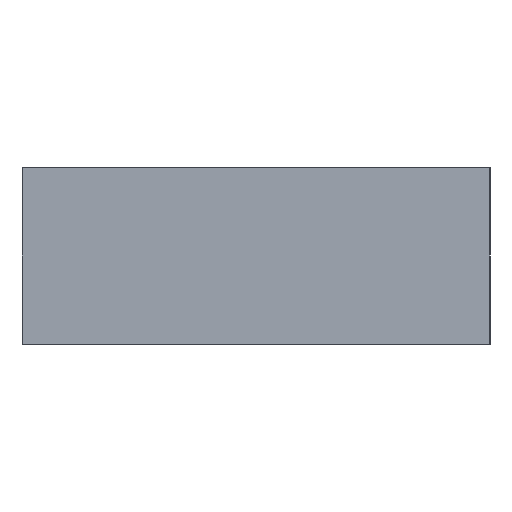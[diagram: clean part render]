
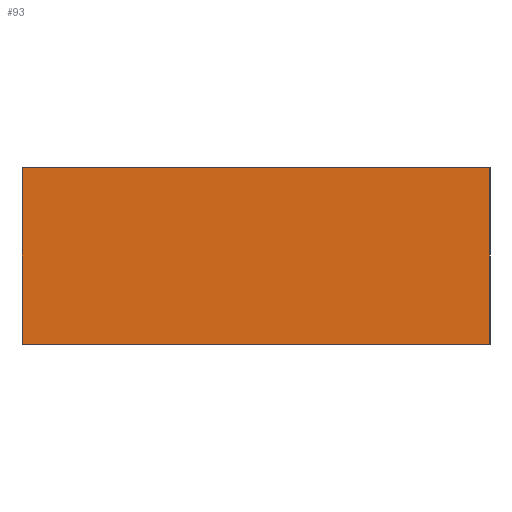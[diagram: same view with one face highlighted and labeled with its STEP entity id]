
A CAD part, left-side view. The second image highlights one B-rep face of the part: STEP entity #93.
In plain terms, the highlighted planar face has unit normal (-1, 0, 0).
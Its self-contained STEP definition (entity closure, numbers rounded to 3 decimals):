
#52 = EDGE_LOOP ( 'NONE', ( #1181, #67, #481, #1205 ) ) ;
#67 = ORIENTED_EDGE ( 'NONE', *, *, #76, .F. ) ;
#76 = EDGE_CURVE ( 'NONE', #744, #179, #77, .T. ) ;
#77 = LINE ( 'NONE', #114, #829 ) ;
#88 = FACE_OUTER_BOUND ( 'NONE', #52, .T. ) ;
#93 = ADVANCED_FACE ( 'NONE', ( #88 ), #764, .F. ) ;
#114 = CARTESIAN_POINT ( 'NONE',  ( 0., 0., 5. ) ) ;
#117 = CARTESIAN_POINT ( 'NONE',  ( 0., 0., -5. ) ) ;
#130 = LINE ( 'NONE', #297, #833 ) ;
#174 = CARTESIAN_POINT ( 'NONE',  ( 0., 26.5, 5. ) ) ;
#179 = VERTEX_POINT ( 'NONE', #117 ) ;
#297 = CARTESIAN_POINT ( 'NONE',  ( 0., 26.5, 5. ) ) ;
#308 = EDGE_CURVE ( 'NONE', #1088, #179, #933, .T. ) ;
#382 = CARTESIAN_POINT ( 'NONE',  ( 0., 26.5, 5. ) ) ;
#409 = CARTESIAN_POINT ( 'NONE',  ( 0., 26.5, 5. ) ) ;
#438 = DIRECTION ( 'NONE',  ( 1., 0., 0. ) ) ;
#462 = CARTESIAN_POINT ( 'NONE',  ( 0., 26.5, -5. ) ) ;
#468 = DIRECTION ( 'NONE',  ( 0., -1., 0. ) ) ;
#481 = ORIENTED_EDGE ( 'NONE', *, *, #929, .F. ) ;
#500 = DIRECTION ( 'NONE',  ( 0., -1., 0. ) ) ;
#545 = DIRECTION ( 'NONE',  ( 0., 0., -1. ) ) ;
#598 = DIRECTION ( 'NONE',  ( 0., 0., -1. ) ) ;
#625 = VERTEX_POINT ( 'NONE', #382 ) ;
#665 = DIRECTION ( 'NONE',  ( 0., 1., 0. ) ) ;
#744 = VERTEX_POINT ( 'NONE', #917 ) ;
#764 = PLANE ( 'NONE',  #910 ) ;
#810 = LINE ( 'NONE', #409, #891 ) ;
#829 = VECTOR ( 'NONE', #545, 1000. ) ;
#833 = VECTOR ( 'NONE', #500, 1000. ) ;
#891 = VECTOR ( 'NONE', #598, 1000. ) ;
#910 = AXIS2_PLACEMENT_3D ( 'NONE', #174, #438, #665 ) ;
#917 = CARTESIAN_POINT ( 'NONE',  ( 0., 0., 5. ) ) ;
#928 = VECTOR ( 'NONE', #468, 1000. ) ;
#929 = EDGE_CURVE ( 'NONE', #625, #744, #130, .T. ) ;
#933 = LINE ( 'NONE', #462, #928 ) ;
#1016 = EDGE_CURVE ( 'NONE', #625, #1088, #810, .T. ) ;
#1088 = VERTEX_POINT ( 'NONE', #1121 ) ;
#1121 = CARTESIAN_POINT ( 'NONE',  ( 0., 26.5, -5. ) ) ;
#1181 = ORIENTED_EDGE ( 'NONE', *, *, #308, .T. ) ;
#1205 = ORIENTED_EDGE ( 'NONE', *, *, #1016, .T. ) ;
